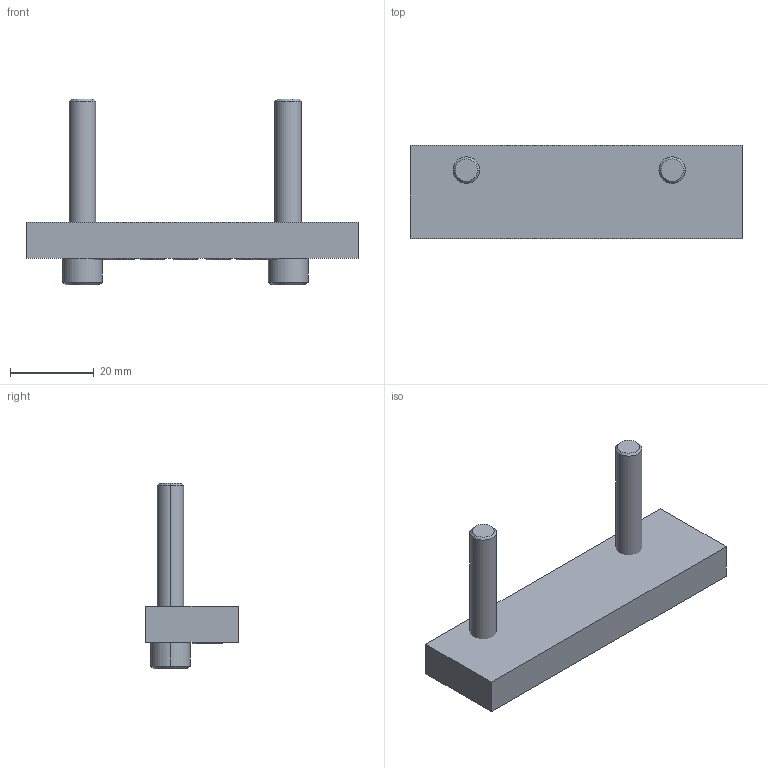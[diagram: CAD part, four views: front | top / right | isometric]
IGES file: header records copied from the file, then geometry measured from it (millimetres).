
Start section:  PTC IGES file: 24r633-en-d.igs
Global section: file name: 24r633-en-d.igs; native system: Creo Parametric by PTC Inc.; preprocessor: 2019030; author: qusrh3; organization: Unknown; date: 20191231.174455; units: inch
Bounding box: 79.38 x 22.23 x 44.45 mm (x, y, z)
Surface area: 7698.4 mm2 (no closed solid volume)
Topology: 0 solids, 0 shells, 44 faces, 168 edges, 168 vertices
Faces by surface type: revolution 34, bspline 10
